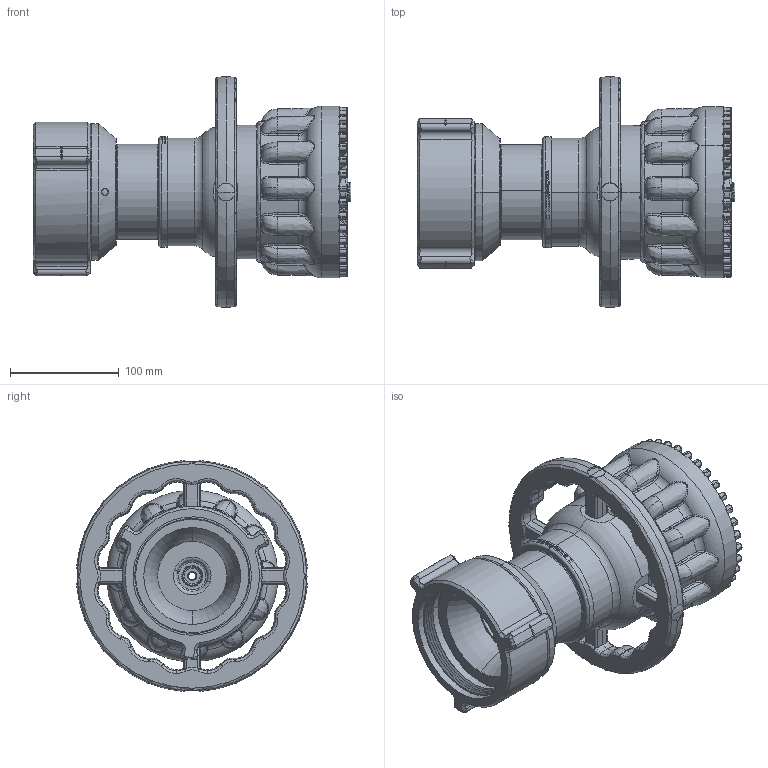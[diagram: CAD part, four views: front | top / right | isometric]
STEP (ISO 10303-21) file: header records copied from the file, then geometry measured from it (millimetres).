
FILE_DESCRIPTION (( 'STEP AP203' ), '1' );
FILE_NAME ('M-R1000-NN.step', '2014-05-13T19:39:53', ( 'user' ), ( '' ), 'SwSTEP 2.0', 'SolidWorks 2012', '' );
FILE_SCHEMA (( 'CONFIG_CONTROL_DESIGN' ));
Length unit declared in the file: inch
Products named in the file (1): M-R1000-NN
Bounding box: 291.84 x 211.96 x 211.96 mm (x, y, z)
Surface area: 311360.3 mm2 (no closed solid volume)
Topology: 0 solids, 30 shells, 1771 faces, 5326 edges, 3388 vertices
Faces by surface type: bspline 581, cylinder 479, plane 304, torus 212, cone 159, sphere 36
Entity records: 93018 total; most frequent: CARTESIAN_POINT 52247, ORIENTED_EDGE 9249, DIRECTION 7032, EDGE_CURVE 5309, VERTEX_POINT 3388, AXIS2_PLACEMENT_3D 2886, B_SPLINE_CURVE_WITH_KNOTS 1961, EDGE_LOOP 1816
